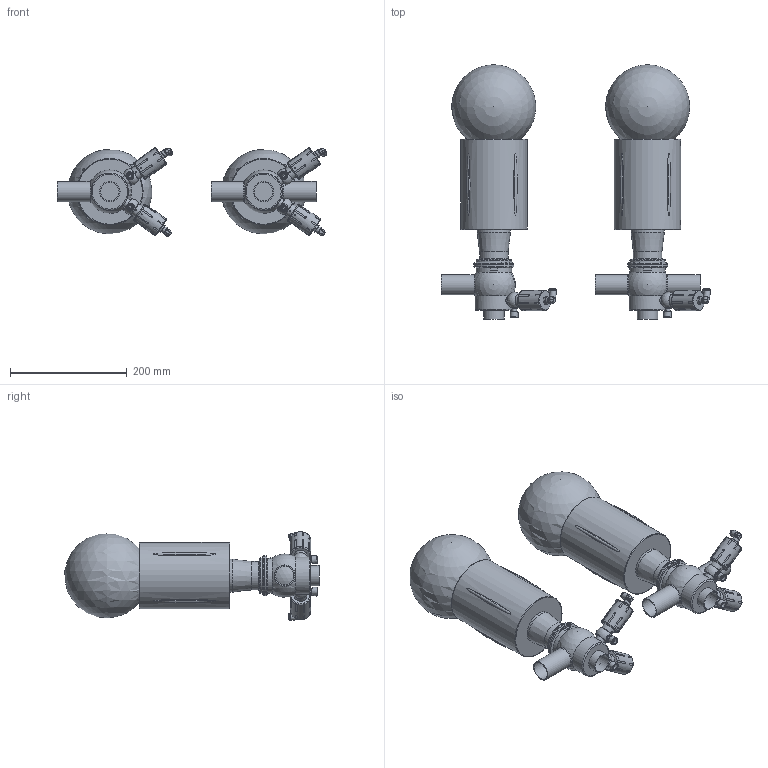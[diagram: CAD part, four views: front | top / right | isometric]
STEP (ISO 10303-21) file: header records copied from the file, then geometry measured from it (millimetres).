
FILE_DESCRIPTION(/* description */ (''),/* implementation_level */ '2;1');
FILE_NAME(/* name */ 'C:\Users\marz-m\Downloads\BZZAW3 3D STEP\BZAW3-DN032 35X1.5-SAL.stp',/* time_stamp */ '2018-09-26T10:38:41+02:00',/* author */ ('marz-m'),/* organization */ (''),/* preprocessor_version */ 'ST-DEVELOPER v17',/* originating_system */ 'Autodesk Inventor 2018',/* authorisation */ '');
FILE_SCHEMA (('AUTOMOTIVE_DESIGN { 1 0 10303 214 3 1 1 }'));
Length unit declared in the file: millimetre
Products named in the file (7): BZAW3-DN032 35X1.5-SAL; TRH5A0032BBA; TRH6A0032BBA; Assemblaggio-DN040; CIL108; SAGOMA-GIOTTO-; Valvolina 3A
Assembly tree (12 placements, depth 2):
  BZAW3-DN032 35X1.5-SAL
    CIL108  x2
    Assemblaggio-DN040  x2
    SAGOMA-GIOTTO-  x2
    Valvolina 3A  x4
    TRH5A0032BBA
    TRH6A0032BBA
Bounding box: 462.11 x 436.47 x 151.97 mm (x, y, z)
Volume: 4970361.5 mm3; surface area: 599120.9 mm2
Topology: 12 solids, 12 shells, 652 faces, 1872 edges, 1325 vertices
Faces by surface type: plane 283, cylinder 196, cone 89, bspline 44, torus 29, sphere 11
Full cylindrical faces by diameter (mm): 2 x8, 6 x16, 7 x4, 8 x4, 8.1 x4, 8.566 x4, 10 x4, 11 x4, 11.5 x4, 12.918 x4, 13.157 x4, 14 x4, 15.9 x4, 16 x4, 20 x4, 22 x4, 32 x5, 35 x9, 49 x2, 57 x2, 61 x4, 64 x2, 69 x4, 108.5 x2, 114 x2
Entity records: 10510 total; most frequent: CARTESIAN_POINT 3930, DIRECTION 1311, ORIENTED_EDGE 1306, EDGE_CURVE 653, AXIS2_PLACEMENT_3D 553, VERTEX_POINT 475, CIRCLE 302, EDGE_LOOP 280
